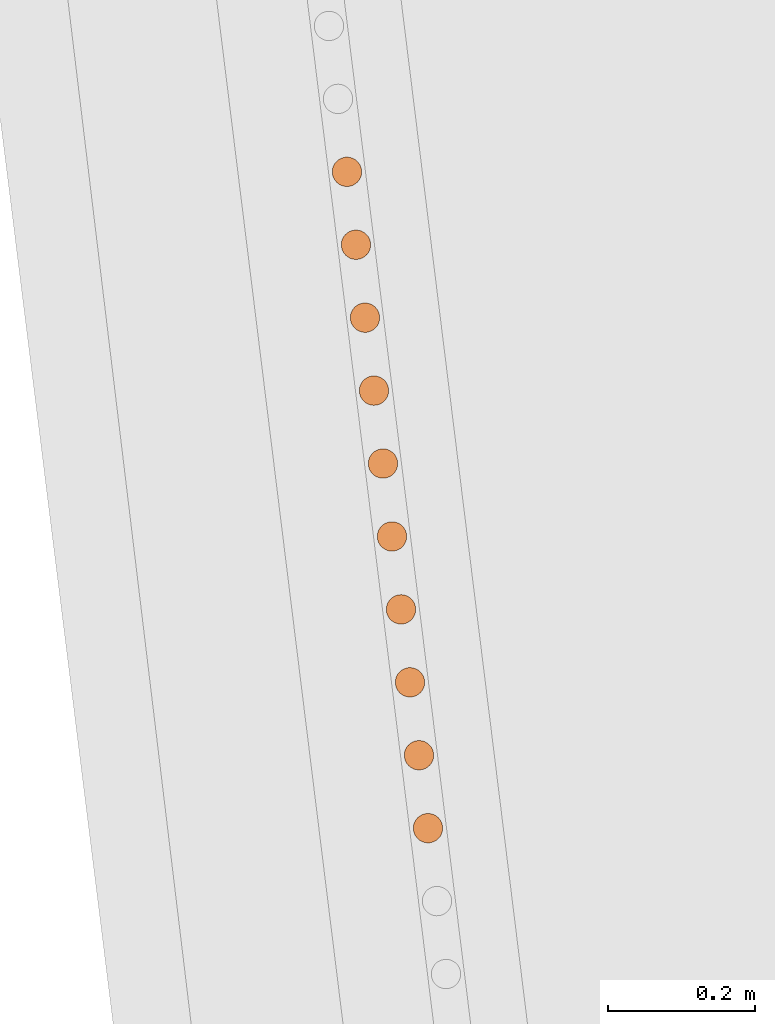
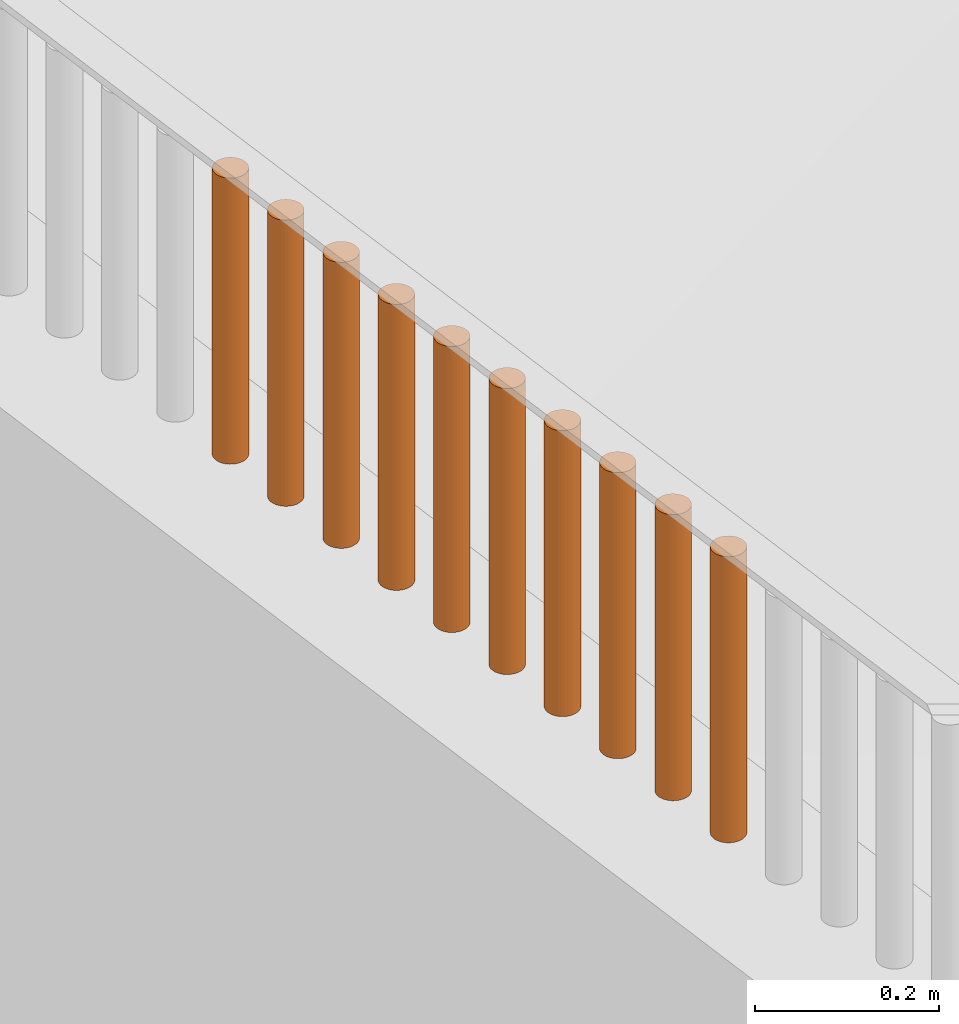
# One storey, part 122 of 1809: 10 proxies, 1 element without a shape of its own.
"""IFC2X3 building model written with IfcOpenShell, lengths in millimetres."""

from ifc_helpers import new_model, entity, si_unit, converted_unit, derived_unit, money_unit, direction, frame, origin_with_axes, place, context, subcontext, project, spatial, faceted_brep, source, transform, mapped, material, type_object, element, aggregate, save


model = new_model("IFC2X3")

# Units and contexts
model_context = context("Model", 3, precision=0.01, world=origin_with_axes(), true_north=direction((0.0, 1.0)))
body_context = subcontext(model_context, "Body", "Model", "MODEL_VIEW")
ifc_project = project(units=[si_unit("LENGTHUNIT", "METRE", prefix="MILLI"), si_unit("AREAUNIT", "SQUARE_METRE"), si_unit("VOLUMEUNIT", "CUBIC_METRE"), converted_unit("PLANEANGLEUNIT", "DEGREE", entity("IfcPlaneAngleMeasure", 0.0174532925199), si_unit("PLANEANGLEUNIT", "RADIAN"), dimensions=[0, 0, 0, 0, 0, 0, 0]), si_unit("SOLIDANGLEUNIT", "STERADIAN"), money_unit("EUR"), converted_unit("TIMEUNIT", "Year", entity("IfcTimeMeasure", 31556926.0), si_unit("TIMEUNIT", "SECOND"), dimensions=[0, 0, 1, 0, 0, 0, 0]), si_unit("MASSUNIT", "GRAM", prefix="KILO"), si_unit("THERMODYNAMICTEMPERATUREUNIT", "DEGREE_CELSIUS"), si_unit("LUMINOUSINTENSITYUNIT", "LUMEN"), si_unit("ENERGYUNIT", "JOULE", prefix="MEGA"), derived_unit("THERMALCONDUCTANCEUNIT", [(si_unit("POWERUNIT", "WATT"), 1), (si_unit("LENGTHUNIT", "METRE"), -1), (si_unit("THERMODYNAMICTEMPERATUREUNIT", "KELVIN"), -1)]), derived_unit("SPECIFICHEATCAPACITYUNIT", [(si_unit("ENERGYUNIT", "JOULE"), 1), (si_unit("MASSUNIT", "GRAM", prefix="KILO"), -1), (si_unit("THERMODYNAMICTEMPERATUREUNIT", "KELVIN"), -1)]), derived_unit("MASSDENSITYUNIT", [(si_unit("MASSUNIT", "GRAM", prefix="KILO"), 1), (si_unit("VOLUMEUNIT", "CUBIC_METRE"), -1)])], contexts=[model_context])

# Site, building, storey
site_placement = place(None, origin_with_axes())
site = spatial("IfcSite", under=ifc_project, at=site_placement, Name="Politse- ja Piirivalveameti ning Päästeameti ühishoone", CompositionType="ELEMENT")
building_placement = place(site_placement, origin_with_axes())
building = spatial("IfcBuilding", under=site, at=building_placement, Name="Politse- ja Piirivalveameti ning Päästeameti ühishoone", CompositionType="ELEMENT")
storey_placement = place(building_placement, origin_with_axes())
storey = spatial("IfcBuildingStorey", under=building, at=storey_placement, Name="Esimene korrus", CompositionType="ELEMENT", Elevation=0.0)

# Proxies
building_element_proxy_type_1 = type_object("IfcBuildingElementProxyType", Name="Railing Type", PredefinedType="NOTDEFINED")
proxy_1_placement = place(storey_placement, frame((-18956.5522504, -53688.4757966, 2100.0), z_axis=(0.0, 0.0, 1.0), x_axis=(1.0, 0.0, 0.0)))
proxy_1 = element("IfcBuildingElementProxy", 1, at=proxy_1_placement, inside=storey, type_object=building_element_proxy_type_1, Name="PIIRDEAED")
ifc_material = material(Name="ET-06_Teras - Konstruktsioon")
building_element_proxy_type_2 = type_object("IfcBuildingElementProxyType", Name="IfcBuildingElementProxy", PredefinedType="NOTDEFINED")
shared_shape_1 = source(origin_with_axes(), body_context, "Body", "Brep", [
    faceted_brep([(0.0, -20.0, 0.0), (3.47296355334, -19.6961550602, 0.0), (3.47296355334, -19.6961550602, 380.000012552), (0.0, -20.0, 380.000012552), (-3.47296355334, -19.6961550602, 0.0), (-6.84040286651, -18.7938524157, 0.0), (-10.0, -17.3205080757, 0.0), (-12.8557521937, -15.3208888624, 0.0), (-15.3208888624, -12.8557521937, 0.0), (-17.3205080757, -10.0, 0.0), (-18.7938524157, -6.84040286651, 0.0), (-19.6961550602, -3.47296355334, 0.0), (-20.0, 0.0, 0.0), (-19.6961550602, 3.47296355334, 0.0), (-18.7938524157, 6.84040286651, 0.0), (-17.3205080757, 10.0, 0.0), (-15.3208888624, 12.8557521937, 0.0), (-12.8557521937, 15.3208888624, 0.0), (-10.0, 17.3205080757, 0.0), (-6.84040286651, 18.7938524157, 0.0), (-3.47296355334, 19.6961550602, 0.0), (0.0, 20.0, 0.0), (3.47296355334, 19.6961550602, 0.0), (6.84040286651, 18.7938524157, 0.0), (10.0, 17.3205080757, 0.0), (12.8557521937, 15.3208888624, 0.0), (15.3208888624, 12.8557521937, 0.0), (17.3205080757, 10.0, 0.0), (18.7938524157, 6.84040286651, 0.0), (19.6961550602, 3.47296355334, 0.0), (20.0, 0.0, 0.0), (19.6961550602, -3.47296355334, 0.0), (18.7938524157, -6.84040286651, 0.0), (17.3205080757, -10.0, 0.0), (15.3208888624, -12.8557521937, 0.0), (12.8557521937, -15.3208888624, 0.0), (10.0, -17.3205080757, 0.0), (6.84040286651, -18.7938524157, 0.0), (6.84040286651, -18.7938524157, 380.000012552), (10.0, -17.3205080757, 380.000012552), (12.8557521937, -15.3208888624, 380.000012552), (15.3208888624, -12.8557521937, 380.000012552), (17.3205080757, -10.0, 380.000012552), (18.7938524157, -6.84040286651, 380.000012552), (19.6961550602, -3.47296355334, 380.000012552), (20.0, 0.0, 380.000012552), (19.6961550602, 3.47296355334, 380.000012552), (18.7938524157, 6.84040286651, 380.000012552), (17.3205080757, 10.0, 380.000012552), (15.3208888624, 12.8557521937, 380.000012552), (12.8557521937, 15.3208888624, 380.000012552), (10.0, 17.3205080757, 380.000012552), (6.84040286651, 18.7938524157, 380.000012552), (3.47296355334, 19.6961550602, 380.000012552), (0.0, 20.0, 380.000012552), (-3.47296355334, 19.6961550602, 380.000012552), (-6.84040286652, 18.7938524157, 380.000012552), (-10.0, 17.3205080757, 380.000012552), (-12.8557521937, 15.3208888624, 380.000012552), (-15.3208888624, 12.8557521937, 380.000012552), (-17.3205080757, 10.0, 380.000012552), (-18.7938524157, 6.84040286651, 380.000012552), (-19.6961550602, 3.47296355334, 380.000012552), (-20.0, 0.0, 380.000012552), (-19.6961550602, -3.47296355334, 380.000012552), (-18.7938524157, -6.84040286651, 380.000012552), (-17.3205080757, -10.0, 380.000012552), (-15.3208888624, -12.8557521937, 380.000012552), (-12.8557521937, -15.3208888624, 380.000012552), (-10.0, -17.3205080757, 380.000012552), (-6.84040286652, -18.7938524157, 380.000012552), (-3.47296355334, -19.6961550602, 380.000012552)], [[[0, 1, 2, 3]], [[0, 4, 5, 6, 7, 8, 9, 10, 11, 12, 13, 14, 15, 16, 17, 18, 19, 20, 21, 22, 23, 24, 25, 26, 27, 28, 29, 30, 31, 32, 33, 34, 35, 36, 37, 1]], [[1, 37, 38, 2]], [[3, 2, 38, 39, 40, 41, 42, 43, 44, 45, 46, 47, 48, 49, 50, 51, 52, 53, 54, 55, 56, 57, 58, 59, 60, 61, 62, 63, 64, 65, 66, 67, 68, 69, 70, 71]], [[4, 0, 3, 71]], [[5, 4, 71, 70]], [[6, 5, 70, 69]], [[7, 6, 69, 68]], [[8, 7, 68, 67]], [[9, 8, 67, 66]], [[10, 9, 66, 65]], [[11, 10, 65, 64]], [[12, 11, 64, 63]], [[13, 12, 63, 62]], [[14, 13, 62, 61]], [[15, 14, 61, 60]], [[16, 15, 60, 59]], [[17, 16, 59, 58]], [[18, 17, 58, 57]], [[19, 18, 57, 56]], [[20, 19, 56, 55]], [[21, 20, 55, 54]], [[22, 21, 54, 53]], [[23, 22, 53, 52]], [[24, 23, 52, 51]], [[25, 24, 51, 50]], [[26, 25, 50, 49]], [[27, 26, 49, 48]], [[28, 27, 48, 47]], [[29, 28, 47, 46]], [[30, 29, 46, 45]], [[31, 30, 45, 44]], [[32, 31, 44, 43]], [[33, 32, 43, 42]], [[34, 33, 42, 41]], [[35, 34, 41, 40]], [[36, 35, 40, 39]], [[37, 36, 39, 38]]]),
])
proxy_2_placement = place(proxy_1_placement, frame((-3154.94907101, 24725.8735015, -1.25517001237e-05), z_axis=(0.0, 0.0, 1.0), x_axis=(1.0, 0.0, 0.0)))
proxy_2 = element("IfcBuildingElementProxy", 2, at=proxy_2_placement, type_object=building_element_proxy_type_2, material=ifc_material, Name="BALUSTER - 001", context=body_context, shape_type="MappedRepresentation", body=[
    mapped(shared_shape_1, transform((0.0, 0.0, 0.0), x_axis=(0.992468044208, 0.122503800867, 0.0), y_axis=(-0.122503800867, 0.992468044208, 0.0), z_axis=(0.0, 0.0, 1.0))),
])
proxy_3_placement = place(proxy_1_placement, frame((-3179.44448083, 24924.3237643, -1.25517001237e-05), z_axis=(0.0, 0.0, 1.0), x_axis=(1.0, 0.0, 0.0)))
proxy_3 = element("IfcBuildingElementProxy", 3, at=proxy_3_placement, type_object=building_element_proxy_type_2, material=ifc_material, Name="BALUSTER - 001", context=body_context, shape_type="MappedRepresentation", body=[
    mapped(shared_shape_1, transform((0.0, 0.0, 0.0), x_axis=(0.992468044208, 0.122503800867, 0.0), y_axis=(-0.122503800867, 0.992468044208, 0.0), z_axis=(0.0, 0.0, 1.0))),
])
shared_shape_2 = source(origin_with_axes(), body_context, "Body", "Brep", [
    faceted_brep([(0.0, -20.0, 0.0), (3.47296355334, -19.6961550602, 0.0), (3.47296355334, -19.6961550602, 380.000012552), (0.0, -20.0, 380.000012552), (-3.47296355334, -19.6961550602, 0.0), (-6.84040286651, -18.7938524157, 0.0), (-10.0, -17.3205080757, 0.0), (-12.8557521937, -15.3208888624, 0.0), (-15.3208888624, -12.8557521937, 0.0), (-17.3205080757, -10.0, 0.0), (-18.7938524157, -6.84040286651, 0.0), (-19.6961550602, -3.47296355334, 0.0), (-20.0, 0.0, 0.0), (-19.6961550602, 3.47296355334, 0.0), (-18.7938524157, 6.84040286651, 0.0), (-17.3205080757, 10.0, 0.0), (-15.3208888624, 12.8557521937, 0.0), (-12.8557521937, 15.3208888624, 0.0), (-10.0, 17.3205080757, 0.0), (-6.84040286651, 18.7938524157, 0.0), (-3.47296355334, 19.6961550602, 0.0), (0.0, 20.0, 0.0), (3.47296355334, 19.6961550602, 0.0), (6.84040286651, 18.7938524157, 0.0), (10.0, 17.3205080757, 0.0), (12.8557521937, 15.3208888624, 0.0), (15.3208888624, 12.8557521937, 0.0), (17.3205080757, 10.0, 0.0), (18.7938524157, 6.84040286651, 0.0), (19.6961550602, 3.47296355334, 0.0), (20.0, 0.0, 0.0), (19.6961550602, -3.47296355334, 0.0), (18.7938524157, -6.84040286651, 0.0), (17.3205080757, -10.0, 0.0), (15.3208888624, -12.8557521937, 0.0), (12.8557521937, -15.3208888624, 0.0), (10.0, -17.3205080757, 0.0), (6.84040286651, -18.7938524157, 0.0), (6.84040286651, -18.7938524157, 380.000012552), (10.0, -17.3205080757, 380.000012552), (12.8557521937, -15.3208888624, 380.000012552), (15.3208888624, -12.8557521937, 380.000012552), (17.3205080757, -10.0, 380.000012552), (18.7938524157, -6.84040286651, 380.000012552), (19.6961550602, -3.47296355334, 380.000012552), (20.0, 0.0, 380.000012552), (19.6961550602, 3.47296355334, 380.000012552), (18.7938524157, 6.84040286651, 380.000012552), (17.3205080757, 10.0, 380.000012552), (15.3208888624, 12.8557521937, 380.000012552), (12.8557521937, 15.3208888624, 380.000012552), (10.0, 17.3205080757, 380.000012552), (6.84040286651, 18.7938524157, 380.000012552), (3.47296355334, 19.6961550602, 380.000012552), (0.0, 20.0, 380.000012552), (-3.47296355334, 19.6961550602, 380.000012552), (-6.84040286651, 18.7938524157, 380.000012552), (-10.0, 17.3205080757, 380.000012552), (-12.8557521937, 15.3208888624, 380.000012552), (-15.3208888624, 12.8557521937, 380.000012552), (-17.3205080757, 10.0, 380.000012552), (-18.7938524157, 6.84040286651, 380.000012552), (-19.6961550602, 3.47296355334, 380.000012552), (-20.0, 0.0, 380.000012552), (-19.6961550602, -3.47296355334, 380.000012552), (-18.7938524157, -6.84040286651, 380.000012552), (-17.3205080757, -10.0, 380.000012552), (-15.3208888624, -12.8557521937, 380.000012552), (-12.8557521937, -15.3208888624, 380.000012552), (-10.0, -17.3205080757, 380.000012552), (-6.84040286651, -18.7938524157, 380.000012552), (-3.47296355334, -19.6961550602, 380.000012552)], [[[0, 1, 2, 3]], [[0, 4, 5, 6, 7, 8, 9, 10, 11, 12, 13, 14, 15, 16, 17, 18, 19, 20, 21, 22, 23, 24, 25, 26, 27, 28, 29, 30, 31, 32, 33, 34, 35, 36, 37, 1]], [[1, 37, 38, 2]], [[3, 2, 38, 39, 40, 41, 42, 43, 44, 45, 46, 47, 48, 49, 50, 51, 52, 53, 54, 55, 56, 57, 58, 59, 60, 61, 62, 63, 64, 65, 66, 67, 68, 69, 70, 71]], [[4, 0, 3, 71]], [[5, 4, 71, 70]], [[6, 5, 70, 69]], [[7, 6, 69, 68]], [[8, 7, 68, 67]], [[9, 8, 67, 66]], [[10, 9, 66, 65]], [[11, 10, 65, 64]], [[12, 11, 64, 63]], [[13, 12, 63, 62]], [[14, 13, 62, 61]], [[15, 14, 61, 60]], [[16, 15, 60, 59]], [[17, 16, 59, 58]], [[18, 17, 58, 57]], [[19, 18, 57, 56]], [[20, 19, 56, 55]], [[21, 20, 55, 54]], [[22, 21, 54, 53]], [[23, 22, 53, 52]], [[24, 23, 52, 51]], [[25, 24, 51, 50]], [[26, 25, 50, 49]], [[27, 26, 49, 48]], [[28, 27, 48, 47]], [[29, 28, 47, 46]], [[30, 29, 46, 45]], [[31, 30, 45, 44]], [[32, 31, 44, 43]], [[33, 32, 43, 42]], [[34, 33, 42, 41]], [[35, 34, 41, 40]], [[36, 35, 40, 39]], [[37, 36, 39, 38]]]),
])
proxy_4_placement = place(proxy_1_placement, frame((-3216.18759557, 25221.9991586, -1.25517001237e-05), z_axis=(0.0, 0.0, 1.0), x_axis=(1.0, 0.0, 0.0)))
proxy_4 = element("IfcBuildingElementProxy", 4, at=proxy_4_placement, type_object=building_element_proxy_type_2, material=ifc_material, Name="BALUSTER - 001", context=body_context, shape_type="MappedRepresentation", body=[
    mapped(shared_shape_2, transform((0.0, 0.0, 0.0), x_axis=(0.992468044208, 0.122503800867, 0.0), y_axis=(-0.122503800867, 0.992468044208, 0.0), z_axis=(0.0, 0.0, 1.0))),
])
shared_shape_3 = source(origin_with_axes(), body_context, "Body", "Brep", [
    faceted_brep([(0.0, -20.0, 0.0), (3.47296355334, -19.6961550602, 0.0), (3.47296355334, -19.6961550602, 380.000012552), (0.0, -20.0, 380.000012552), (-3.47296355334, -19.6961550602, 0.0), (-6.84040286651, -18.7938524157, 0.0), (-10.0, -17.3205080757, 0.0), (-12.8557521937, -15.3208888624, 0.0), (-15.3208888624, -12.8557521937, 0.0), (-17.3205080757, -10.0, 0.0), (-18.7938524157, -6.84040286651, 0.0), (-19.6961550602, -3.47296355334, 0.0), (-20.0, 0.0, 0.0), (-19.6961550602, 3.47296355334, 0.0), (-18.7938524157, 6.84040286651, 0.0), (-17.3205080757, 10.0, 0.0), (-15.3208888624, 12.8557521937, 0.0), (-12.8557521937, 15.3208888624, 0.0), (-10.0, 17.3205080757, 0.0), (-6.84040286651, 18.7938524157, 0.0), (-3.47296355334, 19.6961550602, 0.0), (0.0, 20.0, 0.0), (3.47296355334, 19.6961550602, 0.0), (6.84040286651, 18.7938524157, 0.0), (10.0, 17.3205080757, 0.0), (12.8557521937, 15.3208888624, 0.0), (15.3208888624, 12.8557521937, 0.0), (17.3205080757, 10.0, 0.0), (18.7938524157, 6.84040286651, 0.0), (19.6961550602, 3.47296355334, 0.0), (20.0, 0.0, 0.0), (19.6961550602, -3.47296355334, 0.0), (18.7938524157, -6.84040286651, 0.0), (17.3205080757, -10.0, 0.0), (15.3208888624, -12.8557521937, 0.0), (12.8557521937, -15.3208888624, 0.0), (10.0, -17.3205080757, 0.0), (6.84040286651, -18.7938524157, 0.0), (6.84040286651, -18.7938524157, 380.000012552), (10.0, -17.3205080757, 380.000012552), (12.8557521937, -15.3208888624, 380.000012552), (15.3208888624, -12.8557521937, 380.000012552), (17.3205080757, -10.0, 380.000012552), (18.7938524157, -6.84040286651, 380.000012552), (19.6961550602, -3.47296355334, 380.000012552), (20.0, 0.0, 380.000012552), (19.6961550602, 3.47296355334, 380.000012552), (18.7938524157, 6.84040286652, 380.000012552), (17.3205080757, 10.0, 380.000012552), (15.3208888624, 12.8557521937, 380.000012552), (12.8557521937, 15.3208888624, 380.000012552), (10.0, 17.3205080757, 380.000012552), (6.84040286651, 18.7938524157, 380.000012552), (3.47296355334, 19.6961550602, 380.000012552), (0.0, 20.0, 380.000012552), (-3.47296355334, 19.6961550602, 380.000012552), (-6.84040286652, 18.7938524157, 380.000012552), (-10.0, 17.3205080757, 380.000012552), (-12.8557521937, 15.3208888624, 380.000012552), (-15.3208888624, 12.8557521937, 380.000012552), (-17.3205080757, 10.0, 380.000012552), (-18.7938524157, 6.84040286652, 380.000012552), (-19.6961550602, 3.47296355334, 380.000012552), (-20.0, 0.0, 380.000012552), (-19.6961550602, -3.47296355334, 380.000012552), (-18.7938524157, -6.84040286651, 380.000012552), (-17.3205080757, -10.0, 380.000012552), (-15.3208888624, -12.8557521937, 380.000012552), (-12.8557521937, -15.3208888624, 380.000012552), (-10.0, -17.3205080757, 380.000012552), (-6.84040286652, -18.7938524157, 380.000012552), (-3.47296355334, -19.6961550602, 380.000012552)], [[[0, 1, 2, 3]], [[0, 4, 5, 6, 7, 8, 9, 10, 11, 12, 13, 14, 15, 16, 17, 18, 19, 20, 21, 22, 23, 24, 25, 26, 27, 28, 29, 30, 31, 32, 33, 34, 35, 36, 37, 1]], [[1, 37, 38, 2]], [[3, 2, 38, 39, 40, 41, 42, 43, 44, 45, 46, 47, 48, 49, 50, 51, 52, 53, 54, 55, 56, 57, 58, 59, 60, 61, 62, 63, 64, 65, 66, 67, 68, 69, 70, 71]], [[4, 0, 3, 71]], [[5, 4, 71, 70]], [[6, 5, 70, 69]], [[7, 6, 69, 68]], [[8, 7, 68, 67]], [[9, 8, 67, 66]], [[10, 9, 66, 65]], [[11, 10, 65, 64]], [[12, 11, 64, 63]], [[13, 12, 63, 62]], [[14, 13, 62, 61]], [[15, 14, 61, 60]], [[16, 15, 60, 59]], [[17, 16, 59, 58]], [[18, 17, 58, 57]], [[19, 18, 57, 56]], [[20, 19, 56, 55]], [[21, 20, 55, 54]], [[22, 21, 54, 53]], [[23, 22, 53, 52]], [[24, 23, 52, 51]], [[25, 24, 51, 50]], [[26, 25, 50, 49]], [[27, 26, 49, 48]], [[28, 27, 48, 47]], [[29, 28, 47, 46]], [[30, 29, 46, 45]], [[31, 30, 45, 44]], [[32, 31, 44, 43]], [[33, 32, 43, 42]], [[34, 33, 42, 41]], [[35, 34, 41, 40]], [[36, 35, 40, 39]], [[37, 36, 39, 38]]]),
])
proxy_5_placement = place(proxy_1_placement, frame((-3105.95825136, 24328.9729758, -1.25517001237e-05), z_axis=(0.0, 0.0, 1.0), x_axis=(1.0, 0.0, 0.0)))
proxy_5 = element("IfcBuildingElementProxy", 5, at=proxy_5_placement, type_object=building_element_proxy_type_2, material=ifc_material, Name="BALUSTER - 001", context=body_context, shape_type="MappedRepresentation", body=[
    mapped(shared_shape_3, transform((0.0, 0.0, 0.0), x_axis=(0.992468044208, 0.122503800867, 0.0), y_axis=(-0.122503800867, 0.992468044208, 0.0), z_axis=(0.0, 0.0, 1.0))),
])
shared_shape_4 = source(origin_with_axes(), body_context, "Body", "Brep", [
    faceted_brep([(0.0, -20.0, 0.0), (3.47296355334, -19.6961550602, 0.0), (3.47296355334, -19.6961550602, 380.000012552), (0.0, -20.0, 380.000012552), (-3.47296355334, -19.6961550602, 0.0), (-6.84040286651, -18.7938524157, 0.0), (-10.0, -17.3205080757, 0.0), (-12.8557521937, -15.3208888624, 0.0), (-15.3208888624, -12.8557521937, 0.0), (-17.3205080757, -10.0, 0.0), (-18.7938524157, -6.84040286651, 0.0), (-19.6961550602, -3.47296355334, 0.0), (-20.0, 0.0, 0.0), (-19.6961550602, 3.47296355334, 0.0), (-18.7938524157, 6.84040286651, 0.0), (-17.3205080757, 10.0, 0.0), (-15.3208888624, 12.8557521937, 0.0), (-12.8557521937, 15.3208888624, 0.0), (-10.0, 17.3205080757, 0.0), (-6.84040286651, 18.7938524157, 0.0), (-3.47296355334, 19.6961550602, 0.0), (0.0, 20.0, 0.0), (3.47296355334, 19.6961550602, 0.0), (6.84040286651, 18.7938524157, 0.0), (10.0, 17.3205080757, 0.0), (12.8557521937, 15.3208888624, 0.0), (15.3208888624, 12.8557521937, 0.0), (17.3205080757, 10.0, 0.0), (18.7938524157, 6.84040286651, 0.0), (19.6961550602, 3.47296355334, 0.0), (20.0, 0.0, 0.0), (19.6961550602, -3.47296355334, 0.0), (18.7938524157, -6.84040286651, 0.0), (17.3205080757, -10.0, 0.0), (15.3208888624, -12.8557521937, 0.0), (12.8557521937, -15.3208888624, 0.0), (10.0, -17.3205080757, 0.0), (6.84040286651, -18.7938524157, 0.0), (6.84040286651, -18.7938524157, 380.000012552), (10.0, -17.3205080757, 380.000012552), (12.8557521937, -15.3208888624, 380.000012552), (15.3208888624, -12.8557521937, 380.000012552), (17.3205080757, -10.0, 380.000012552), (18.7938524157, -6.84040286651, 380.000012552), (19.6961550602, -3.47296355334, 380.000012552), (20.0, 0.0, 380.000012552), (19.6961550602, 3.47296355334, 380.000012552), (18.7938524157, 6.84040286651, 380.000012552), (17.3205080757, 10.0, 380.000012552), (15.3208888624, 12.8557521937, 380.000012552), (12.8557521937, 15.3208888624, 380.000012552), (10.0, 17.3205080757, 380.000012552), (6.84040286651, 18.7938524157, 380.000012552), (3.47296355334, 19.6961550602, 380.000012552), (0.0, 20.0, 380.000012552), (-3.47296355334, 19.6961550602, 380.000012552), (-6.84040286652, 18.7938524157, 380.000012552), (-10.0, 17.3205080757, 380.000012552), (-12.8557521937, 15.3208888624, 380.000012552), (-15.3208888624, 12.8557521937, 380.000012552), (-17.3205080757, 10.0, 380.000012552), (-18.7938524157, 6.84040286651, 380.000012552), (-19.6961550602, 3.47296355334, 380.000012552), (-20.0, 0.0, 380.000012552), (-19.6961550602, -3.47296355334, 380.000012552), (-18.7938524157, -6.84040286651, 380.000012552), (-17.3205080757, -10.0, 380.000012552), (-15.3208888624, -12.8557521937, 380.000012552), (-12.8557521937, -15.3208888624, 380.000012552), (-10.0, -17.3205080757, 380.000012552), (-6.84040286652, -18.7938524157, 380.000012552), (-3.47296355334, -19.6961550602, 380.000012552)], [[[0, 1, 2, 3]], [[0, 4, 5, 6, 7, 8, 9, 10, 11, 12, 13, 14, 15, 16, 17, 18, 19, 20, 21, 22, 23, 24, 25, 26, 27, 28, 29, 30, 31, 32, 33, 34, 35, 36, 37, 1]], [[1, 37, 38, 2]], [[3, 2, 38, 39, 40, 41, 42, 43, 44, 45, 46, 47, 48, 49, 50, 51, 52, 53, 54, 55, 56, 57, 58, 59, 60, 61, 62, 63, 64, 65, 66, 67, 68, 69, 70, 71]], [[4, 0, 3, 71]], [[5, 4, 71, 70]], [[6, 5, 70, 69]], [[7, 6, 69, 68]], [[8, 7, 68, 67]], [[9, 8, 67, 66]], [[10, 9, 66, 65]], [[11, 10, 65, 64]], [[12, 11, 64, 63]], [[13, 12, 63, 62]], [[14, 13, 62, 61]], [[15, 14, 61, 60]], [[16, 15, 60, 59]], [[17, 16, 59, 58]], [[18, 17, 58, 57]], [[19, 18, 57, 56]], [[20, 19, 56, 55]], [[21, 20, 55, 54]], [[22, 21, 54, 53]], [[23, 22, 53, 52]], [[24, 23, 52, 51]], [[25, 24, 51, 50]], [[26, 25, 50, 49]], [[27, 26, 49, 48]], [[28, 27, 48, 47]], [[29, 28, 47, 46]], [[30, 29, 46, 45]], [[31, 30, 45, 44]], [[32, 31, 44, 43]], [[33, 32, 43, 42]], [[34, 33, 42, 41]], [[35, 34, 41, 40]], [[36, 35, 40, 39]], [[37, 36, 39, 38]]]),
])
proxy_6_placement = place(proxy_1_placement, frame((-3130.45366118, 24527.4232386, -1.25517001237e-05), z_axis=(0.0, 0.0, 1.0), x_axis=(1.0, 0.0, 0.0)))
proxy_6 = element("IfcBuildingElementProxy", 6, at=proxy_6_placement, type_object=building_element_proxy_type_2, material=ifc_material, Name="BALUSTER - 001", context=body_context, shape_type="MappedRepresentation", body=[
    mapped(shared_shape_4, transform((0.0, 0.0, 0.0), x_axis=(0.992468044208, 0.122503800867, 0.0), y_axis=(-0.122503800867, 0.992468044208, 0.0), z_axis=(0.0, 0.0, 1.0))),
])
proxy_7_placement = place(proxy_1_placement, frame((-3191.69218575, 25023.5488958, -1.25517001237e-05), z_axis=(0.0, 0.0, 1.0), x_axis=(1.0, 0.0, 0.0)))
proxy_7 = element("IfcBuildingElementProxy", 7, at=proxy_7_placement, type_object=building_element_proxy_type_2, material=ifc_material, Name="BALUSTER - 001", context=body_context, shape_type="MappedRepresentation", body=[
    mapped(shared_shape_4, transform((0.0, 0.0, 0.0), x_axis=(0.992468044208, 0.122503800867, 0.0), y_axis=(-0.122503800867, 0.992468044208, 0.0), z_axis=(0.0, 0.0, 1.0))),
])
shared_shape_5 = source(origin_with_axes(), body_context, "Body", "Brep", [
    faceted_brep([(0.0, -20.0, 0.0), (3.47296355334, -19.6961550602, 0.0), (3.47296355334, -19.6961550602, 380.000012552), (0.0, -20.0, 380.000012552), (-3.47296355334, -19.6961550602, 0.0), (-6.84040286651, -18.7938524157, 0.0), (-10.0, -17.3205080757, 0.0), (-12.8557521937, -15.3208888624, 0.0), (-15.3208888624, -12.8557521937, 0.0), (-17.3205080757, -10.0, 0.0), (-18.7938524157, -6.84040286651, 0.0), (-19.6961550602, -3.47296355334, 0.0), (-20.0, 0.0, 0.0), (-19.6961550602, 3.47296355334, 0.0), (-18.7938524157, 6.84040286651, 0.0), (-17.3205080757, 10.0, 0.0), (-15.3208888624, 12.8557521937, 0.0), (-12.8557521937, 15.3208888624, 0.0), (-10.0, 17.3205080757, 0.0), (-6.84040286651, 18.7938524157, 0.0), (-3.47296355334, 19.6961550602, 0.0), (0.0, 20.0, 0.0), (3.47296355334, 19.6961550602, 0.0), (6.84040286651, 18.7938524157, 0.0), (10.0, 17.3205080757, 0.0), (12.8557521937, 15.3208888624, 0.0), (15.3208888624, 12.8557521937, 0.0), (17.3205080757, 10.0, 0.0), (18.7938524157, 6.84040286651, 0.0), (19.6961550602, 3.47296355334, 0.0), (20.0, 0.0, 0.0), (19.6961550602, -3.47296355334, 0.0), (18.7938524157, -6.84040286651, 0.0), (17.3205080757, -10.0, 0.0), (15.3208888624, -12.8557521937, 0.0), (12.8557521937, -15.3208888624, 0.0), (10.0, -17.3205080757, 0.0), (6.84040286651, -18.7938524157, 0.0), (6.84040286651, -18.7938524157, 380.000012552), (10.0, -17.3205080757, 380.000012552), (12.8557521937, -15.3208888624, 380.000012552), (15.3208888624, -12.8557521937, 380.000012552), (17.3205080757, -10.0, 380.000012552), (18.7938524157, -6.84040286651, 380.000012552), (19.6961550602, -3.47296355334, 380.000012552), (20.0, 0.0, 380.000012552), (19.6961550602, 3.47296355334, 380.000012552), (18.7938524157, 6.84040286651, 380.000012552), (17.3205080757, 10.0, 380.000012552), (15.3208888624, 12.8557521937, 380.000012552), (12.8557521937, 15.3208888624, 380.000012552), (10.0, 17.3205080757, 380.000012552), (6.84040286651, 18.7938524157, 380.000012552), (3.47296355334, 19.6961550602, 380.000012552), (0.0, 20.0, 380.000012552), (-3.47296355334, 19.6961550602, 380.000012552), (-6.84040286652, 18.7938524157, 380.000012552), (-10.0, 17.3205080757, 380.000012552), (-12.8557521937, 15.3208888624, 380.000012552), (-15.3208888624, 12.8557521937, 380.000012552), (-17.3205080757, 10.0, 380.000012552), (-18.7938524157, 6.84040286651, 380.000012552), (-19.6961550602, 3.47296355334, 380.000012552), (-20.0, 0.0, 380.000012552), (-19.6961550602, -3.47296355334, 380.000012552), (-18.7938524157, -6.84040286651, 380.000012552), (-17.3205080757, -10.0, 380.000012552), (-15.3208888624, -12.8557521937, 380.000012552), (-12.8557521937, -15.3208888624, 380.000012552), (-10.0, -17.3205080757, 380.000012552), (-6.84040286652, -18.7938524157, 380.000012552), (-3.47296355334, -19.6961550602, 380.000012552)], [[[0, 1, 2, 3]], [[0, 4, 5, 6, 7, 8, 9, 10, 11, 12, 13, 14, 15, 16, 17, 18, 19, 20, 21, 22, 23, 24, 25, 26, 27, 28, 29, 30, 31, 32, 33, 34, 35, 36, 37, 1]], [[1, 37, 38, 2]], [[3, 2, 38, 39, 40, 41, 42, 43, 44, 45, 46, 47, 48, 49, 50, 51, 52, 53, 54, 55, 56, 57, 58, 59, 60, 61, 62, 63, 64, 65, 66, 67, 68, 69, 70, 71]], [[4, 0, 3, 71]], [[5, 4, 71, 70]], [[6, 5, 70, 69]], [[7, 6, 69, 68]], [[8, 7, 68, 67]], [[9, 8, 67, 66]], [[10, 9, 66, 65]], [[11, 10, 65, 64]], [[12, 11, 64, 63]], [[13, 12, 63, 62]], [[14, 13, 62, 61]], [[15, 14, 61, 60]], [[16, 15, 60, 59]], [[17, 16, 59, 58]], [[18, 17, 58, 57]], [[19, 18, 57, 56]], [[20, 19, 56, 55]], [[21, 20, 55, 54]], [[22, 21, 54, 53]], [[23, 22, 53, 52]], [[24, 23, 52, 51]], [[25, 24, 51, 50]], [[26, 25, 50, 49]], [[27, 26, 49, 48]], [[28, 27, 48, 47]], [[29, 28, 47, 46]], [[30, 29, 46, 45]], [[31, 30, 45, 44]], [[32, 31, 44, 43]], [[33, 32, 43, 42]], [[34, 33, 42, 41]], [[35, 34, 41, 40]], [[36, 35, 40, 39]], [[37, 36, 39, 38]]]),
])
proxy_8_placement = place(proxy_1_placement, frame((-3118.20595627, 24428.1981072, -1.25517001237e-05), z_axis=(0.0, 0.0, 1.0), x_axis=(1.0, 0.0, 0.0)))
proxy_8 = element("IfcBuildingElementProxy", 8, at=proxy_8_placement, type_object=building_element_proxy_type_2, material=ifc_material, Name="BALUSTER - 001", context=body_context, shape_type="MappedRepresentation", body=[
    mapped(shared_shape_5, transform((0.0, 0.0, 0.0), x_axis=(0.992468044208, 0.122503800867, 0.0), y_axis=(-0.122503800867, 0.992468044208, 0.0), z_axis=(0.0, 0.0, 1.0))),
])
proxy_9_placement = place(proxy_1_placement, frame((-3167.19677592, 24825.0986329, -1.25517001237e-05), z_axis=(0.0, 0.0, 1.0), x_axis=(1.0, 0.0, 0.0)))
proxy_9 = element("IfcBuildingElementProxy", 9, at=proxy_9_placement, type_object=building_element_proxy_type_2, material=ifc_material, Name="BALUSTER - 001", context=body_context, shape_type="MappedRepresentation", body=[
    mapped(shared_shape_5, transform((0.0, 0.0, 0.0), x_axis=(0.992468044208, 0.122503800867, 0.0), y_axis=(-0.122503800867, 0.992468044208, 0.0), z_axis=(0.0, 0.0, 1.0))),
])
shared_shape_6 = source(origin_with_axes(), body_context, "Body", "Brep", [
    faceted_brep([(0.0, -20.0, 0.0), (3.47296355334, -19.6961550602, 0.0), (3.47296355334, -19.6961550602, 380.000012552), (0.0, -20.0, 380.000012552), (-3.47296355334, -19.6961550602, 0.0), (-6.84040286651, -18.7938524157, 0.0), (-10.0, -17.3205080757, 0.0), (-12.8557521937, -15.3208888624, 0.0), (-15.3208888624, -12.8557521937, 0.0), (-17.3205080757, -10.0, 0.0), (-18.7938524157, -6.84040286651, 0.0), (-19.6961550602, -3.47296355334, 0.0), (-20.0, 0.0, 0.0), (-19.6961550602, 3.47296355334, 0.0), (-18.7938524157, 6.84040286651, 0.0), (-17.3205080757, 10.0, 0.0), (-15.3208888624, 12.8557521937, 0.0), (-12.8557521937, 15.3208888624, 0.0), (-10.0, 17.3205080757, 0.0), (-6.84040286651, 18.7938524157, 0.0), (-3.47296355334, 19.6961550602, 0.0), (0.0, 20.0, 0.0), (3.47296355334, 19.6961550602, 0.0), (6.84040286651, 18.7938524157, 0.0), (10.0, 17.3205080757, 0.0), (12.8557521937, 15.3208888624, 0.0), (15.3208888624, 12.8557521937, 0.0), (17.3205080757, 10.0, 0.0), (18.7938524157, 6.84040286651, 0.0), (19.6961550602, 3.47296355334, 0.0), (20.0, 0.0, 0.0), (19.6961550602, -3.47296355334, 0.0), (18.7938524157, -6.84040286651, 0.0), (17.3205080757, -10.0, 0.0), (15.3208888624, -12.8557521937, 0.0), (12.8557521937, -15.3208888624, 0.0), (10.0, -17.3205080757, 0.0), (6.84040286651, -18.7938524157, 0.0), (6.84040286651, -18.7938524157, 380.000012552), (10.0, -17.3205080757, 380.000012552), (12.8557521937, -15.3208888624, 380.000012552), (15.3208888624, -12.8557521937, 380.000012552), (17.3205080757, -10.0, 380.000012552), (18.7938524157, -6.84040286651, 380.000012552), (19.6961550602, -3.47296355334, 380.000012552), (20.0, 0.0, 380.000012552), (19.6961550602, 3.47296355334, 380.000012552), (18.7938524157, 6.84040286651, 380.000012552), (17.3205080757, 10.0, 380.000012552), (15.3208888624, 12.8557521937, 380.000012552), (12.8557521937, 15.3208888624, 380.000012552), (10.0, 17.3205080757, 380.000012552), (6.84040286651, 18.7938524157, 380.000012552), (3.47296355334, 19.6961550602, 380.000012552), (0.0, 20.0, 380.000012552), (-3.47296355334, 19.6961550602, 380.000012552), (-6.84040286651, 18.7938524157, 380.000012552), (-10.0, 17.3205080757, 380.000012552), (-12.8557521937, 15.3208888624, 380.000012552), (-15.3208888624, 12.8557521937, 380.000012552), (-17.3205080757, 10.0, 380.000012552), (-18.7938524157, 6.84040286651, 380.000012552), (-19.6961550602, 3.47296355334, 380.000012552), (-20.0, 0.0, 380.000012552), (-19.6961550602, -3.47296355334, 380.000012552), (-18.7938524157, -6.84040286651, 380.000012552), (-17.3205080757, -10.0, 380.000012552), (-15.3208888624, -12.8557521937, 380.000012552), (-12.8557521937, -15.3208888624, 380.000012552), (-10.0, -17.3205080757, 380.000012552), (-6.84040286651, -18.7938524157, 380.000012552), (-3.47296355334, -19.6961550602, 380.000012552)], [[[0, 1, 2, 3]], [[0, 4, 5, 6, 7, 8, 9, 10, 11, 12, 13, 14, 15, 16, 17, 18, 19, 20, 21, 22, 23, 24, 25, 26, 27, 28, 29, 30, 31, 32, 33, 34, 35, 36, 37, 1]], [[1, 37, 38, 2]], [[3, 2, 38, 39, 40, 41, 42, 43, 44, 45, 46, 47, 48, 49, 50, 51, 52, 53, 54, 55, 56, 57, 58, 59, 60, 61, 62, 63, 64, 65, 66, 67, 68, 69, 70, 71]], [[4, 0, 3, 71]], [[5, 4, 71, 70]], [[6, 5, 70, 69]], [[7, 6, 69, 68]], [[8, 7, 68, 67]], [[9, 8, 67, 66]], [[10, 9, 66, 65]], [[11, 10, 65, 64]], [[12, 11, 64, 63]], [[13, 12, 63, 62]], [[14, 13, 62, 61]], [[15, 14, 61, 60]], [[16, 15, 60, 59]], [[17, 16, 59, 58]], [[18, 17, 58, 57]], [[19, 18, 57, 56]], [[20, 19, 56, 55]], [[21, 20, 55, 54]], [[22, 21, 54, 53]], [[23, 22, 53, 52]], [[24, 23, 52, 51]], [[25, 24, 51, 50]], [[26, 25, 50, 49]], [[27, 26, 49, 48]], [[28, 27, 48, 47]], [[29, 28, 47, 46]], [[30, 29, 46, 45]], [[31, 30, 45, 44]], [[32, 31, 44, 43]], [[33, 32, 43, 42]], [[34, 33, 42, 41]], [[35, 34, 41, 40]], [[36, 35, 40, 39]], [[37, 36, 39, 38]]]),
])
proxy_10_placement = place(proxy_1_placement, frame((-3142.7013661, 24626.6483701, -1.25517001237e-05), z_axis=(0.0, 0.0, 1.0), x_axis=(1.0, 0.0, 0.0)))
proxy_10 = element("IfcBuildingElementProxy", 10, at=proxy_10_placement, type_object=building_element_proxy_type_2, material=ifc_material, Name="BALUSTER - 001", context=body_context, shape_type="MappedRepresentation", body=[
    mapped(shared_shape_6, transform((0.0, 0.0, 0.0), x_axis=(0.992468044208, 0.122503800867, 0.0), y_axis=(-0.122503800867, 0.992468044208, 0.0), z_axis=(0.0, 0.0, 1.0))),
])
proxy_11_placement = place(proxy_1_placement, frame((-3203.93989066, 25122.7740272, -1.25517001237e-05), z_axis=(0.0, 0.0, 1.0), x_axis=(1.0, 0.0, 0.0)))
proxy_11 = element("IfcBuildingElementProxy", 11, at=proxy_11_placement, type_object=building_element_proxy_type_2, material=ifc_material, Name="BALUSTER - 001", context=body_context, shape_type="MappedRepresentation", body=[
    mapped(shared_shape_6, transform((0.0, 0.0, 0.0), x_axis=(0.992468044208, 0.122503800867, 0.0), y_axis=(-0.122503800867, 0.992468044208, 0.0), z_axis=(0.0, 0.0, 1.0))),
])
aggregate(proxy_1, [proxy_5, proxy_8, proxy_6, proxy_10, proxy_2, proxy_9, proxy_3, proxy_7, proxy_11, proxy_4])

save(model, "model.ifc")
